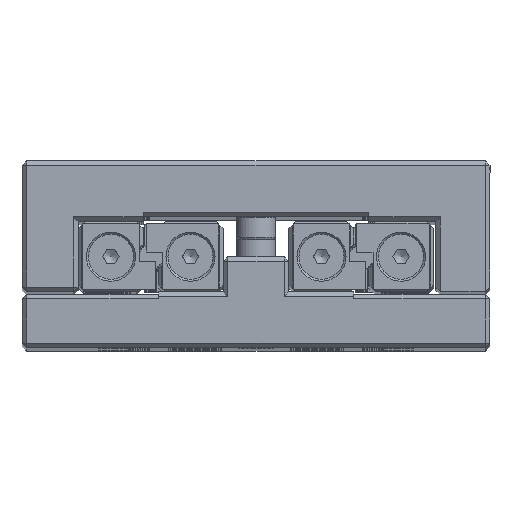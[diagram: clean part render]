
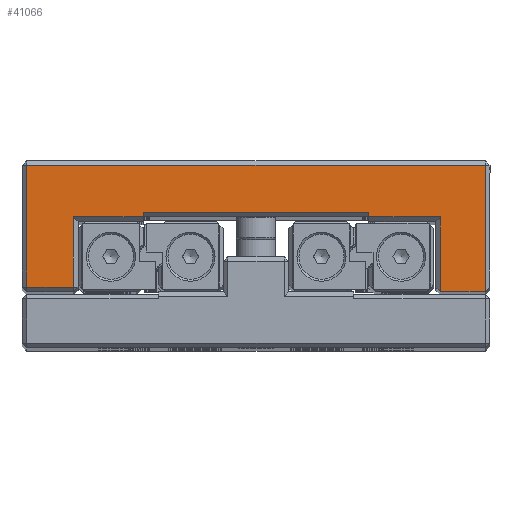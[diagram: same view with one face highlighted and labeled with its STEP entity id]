
A CAD part, top view. The second image highlights one B-rep face of the part: STEP entity #41066.
In plain terms, the highlighted planar face has unit normal (0, 0, 1).
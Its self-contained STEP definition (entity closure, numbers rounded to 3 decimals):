
#2367=PLANE('',#44438);
#4585=FACE_OUTER_BOUND('',#7033,.T.);
#7033=EDGE_LOOP('',(#33429,#33430,#33431,#33432,#33433,#33434,#33435,#33436,
#33437,#33438,#33439,#33440));
#9904=LINE('',#63817,#13470);
#9973=LINE('',#64297,#13539);
#10058=LINE('',#64903,#13624);
#10154=LINE('',#65214,#13720);
#10158=LINE('',#65222,#13724);
#10167=LINE('',#65237,#13733);
#10171=LINE('',#65245,#13737);
#10186=LINE('',#65271,#13752);
#10189=LINE('',#65275,#13755);
#10208=LINE('',#65314,#13774);
#10211=LINE('',#65319,#13777);
#10212=LINE('',#65320,#13778);
#13470=VECTOR('',#51310,10.);
#13539=VECTOR('',#51837,10.);
#13624=VECTOR('',#52294,10.);
#13720=VECTOR('',#52534,10.);
#13724=VECTOR('',#52542,10.);
#13733=VECTOR('',#52557,10.);
#13737=VECTOR('',#52563,10.);
#13752=VECTOR('',#52588,10.);
#13755=VECTOR('',#52593,10.);
#13774=VECTOR('',#52646,10.);
#13777=VECTOR('',#52653,10.);
#13778=VECTOR('',#52654,10.);
#18454=VERTEX_POINT('',#63813);
#18456=VERTEX_POINT('',#63816);
#18621=VERTEX_POINT('',#64293);
#18623=VERTEX_POINT('',#64296);
#18802=VERTEX_POINT('',#64892);
#18805=VERTEX_POINT('',#64901);
#18900=VERTEX_POINT('',#65213);
#18901=VERTEX_POINT('',#65220);
#18902=VERTEX_POINT('',#65221);
#18905=VERTEX_POINT('',#65236);
#18908=VERTEX_POINT('',#65243);
#18914=VERTEX_POINT('',#65269);
#23366=EDGE_CURVE('',#18456,#18454,#9904,.T.);
#23592=EDGE_CURVE('',#18623,#18621,#9973,.T.);
#23851=EDGE_CURVE('',#18802,#18805,#10058,.T.);
#23982=EDGE_CURVE('',#18456,#18900,#10154,.T.);
#23986=EDGE_CURVE('',#18901,#18902,#10158,.T.);
#23995=EDGE_CURVE('',#18902,#18905,#10167,.T.);
#23999=EDGE_CURVE('',#18908,#18454,#10171,.T.);
#24014=EDGE_CURVE('',#18914,#18908,#10186,.T.);
#24017=EDGE_CURVE('',#18905,#18914,#10189,.T.);
#24036=EDGE_CURVE('',#18623,#18805,#10208,.T.);
#24039=EDGE_CURVE('',#18802,#18901,#10211,.T.);
#24040=EDGE_CURVE('',#18900,#18621,#10212,.T.);
#33429=ORIENTED_EDGE('',*,*,#24039,.F.);
#33430=ORIENTED_EDGE('',*,*,#23851,.T.);
#33431=ORIENTED_EDGE('',*,*,#24036,.F.);
#33432=ORIENTED_EDGE('',*,*,#23592,.T.);
#33433=ORIENTED_EDGE('',*,*,#24040,.F.);
#33434=ORIENTED_EDGE('',*,*,#23982,.F.);
#33435=ORIENTED_EDGE('',*,*,#23366,.T.);
#33436=ORIENTED_EDGE('',*,*,#23999,.F.);
#33437=ORIENTED_EDGE('',*,*,#24014,.F.);
#33438=ORIENTED_EDGE('',*,*,#24017,.F.);
#33439=ORIENTED_EDGE('',*,*,#23995,.F.);
#33440=ORIENTED_EDGE('',*,*,#23986,.F.);
#41066=ADVANCED_FACE('',(#4585),#2367,.T.);
#44438=AXIS2_PLACEMENT_3D('',#65318,#52651,#52652);
#51310=DIRECTION('',(1.,0.,0.));
#51837=DIRECTION('',(0.,-1.,0.));
#52294=DIRECTION('',(0.,1.,0.));
#52534=DIRECTION('',(0.,1.,0.));
#52542=DIRECTION('',(0.,-1.,0.));
#52557=DIRECTION('',(-1.,0.,0.));
#52563=DIRECTION('',(0.,-1.,0.));
#52588=DIRECTION('',(1.,0.,0.));
#52593=DIRECTION('',(0.,1.,0.));
#52646=DIRECTION('',(-1.,0.,0.));
#52651=DIRECTION('center_axis',(0.,0.,
1.));
#52652=DIRECTION('ref_axis',(1.,0.,0.));
#52653=DIRECTION('',(-1.,0.,0.));
#52654=DIRECTION('',(-1.,0.,0.));
#63813=CARTESIAN_POINT('',(19.869,67.583,214.133));
#63816=CARTESIAN_POINT('',(10.269,67.583,214.133));
#63817=CARTESIAN_POINT('',(9.269,67.583,214.133));
#64293=CARTESIAN_POINT('',(-5.031,83.583,214.133));
#64296=CARTESIAN_POINT('',(-5.031,84.583,214.133));
#64297=CARTESIAN_POINT('',(-5.031,83.583,214.133));
#64892=CARTESIAN_POINT('',(-53.231,83.583,214.133));
#64901=CARTESIAN_POINT('',(-53.231,84.583,214.133));
#64903=CARTESIAN_POINT('',(-53.231,82.583,214.133));
#65213=CARTESIAN_POINT('',(10.269,83.583,214.133));
#65214=CARTESIAN_POINT('',(10.269,82.083,214.133));
#65220=CARTESIAN_POINT('',(-68.131,83.583,214.133));
#65221=CARTESIAN_POINT('',(-68.131,68.583,214.133));
#65222=CARTESIAN_POINT('',(-68.131,74.583,214.133));
#65236=CARTESIAN_POINT('',(-78.131,68.583,214.133));
#65237=CARTESIAN_POINT('',(-54.131,68.583,214.133));
#65243=CARTESIAN_POINT('',(19.869,94.583,214.133));
#65245=CARTESIAN_POINT('',(19.869,74.583,214.133));
#65269=CARTESIAN_POINT('',(-78.131,94.583,214.133));
#65271=CARTESIAN_POINT('',(-4.131,94.583,214.133));
#65275=CARTESIAN_POINT('',(-78.131,88.583,214.133));
#65314=CARTESIAN_POINT('',(-41.181,84.583,214.133));
#65318=CARTESIAN_POINT('Origin',(-29.131,81.583,214.133));
#65319=CARTESIAN_POINT('',(-48.131,83.583,214.133));
#65320=CARTESIAN_POINT('',(-17.081,83.583,214.133));
